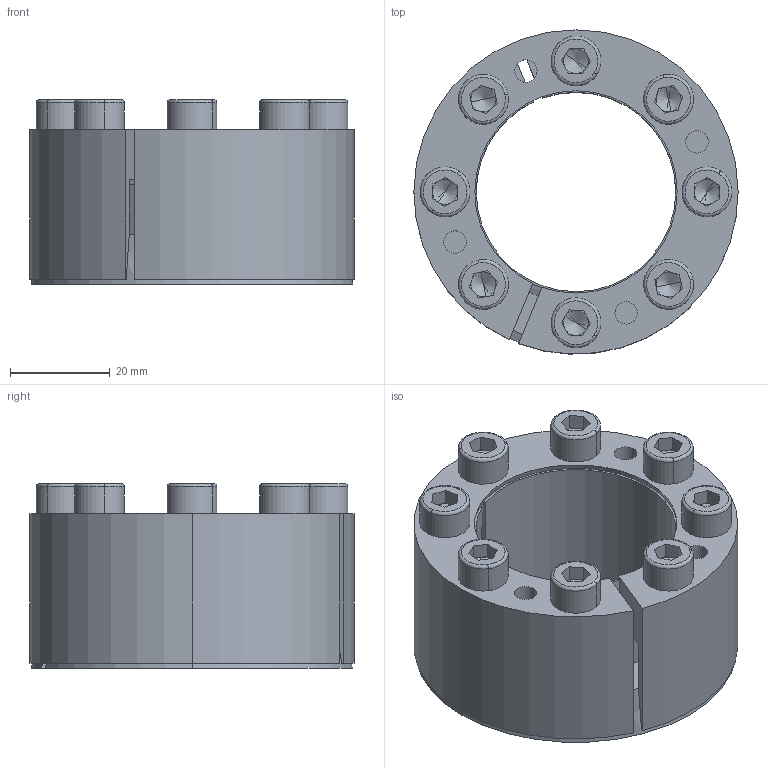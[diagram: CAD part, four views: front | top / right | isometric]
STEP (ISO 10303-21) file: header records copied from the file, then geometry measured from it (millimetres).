
FILE_DESCRIPTION (( 'STEP AP214' ), '1' );
FILE_NAME ('CONEX-K-40x65.step', '2013-04-06T13:21:10', ( 'Pc' ), ( '' ), 'SwSTEP 2.0', 'SolidWorks 2013', '' );
FILE_SCHEMA (( 'AUTOMOTIVE_DESIGN' ));
Length unit declared in the file: millimetre
Products named in the file (1): CONEX-K-40x65
Bounding box: 65 x 64.97 x 37.01 mm (x, y, z)
Volume: 53541.2 mm3; surface area: 37160 mm2
Topology: 10 solids, 10 shells, 290 faces, 670 edges, 400 vertices
Faces by surface type: plane 130, cylinder 84, cone 44, torus 32
Entity records: 11481 total; most frequent: DIRECTION 1542, CARTESIAN_POINT 1369, ORIENTED_EDGE 1308, EDGE_CURVE 654, AXIS2_PLACEMENT_3D 605, VERTEX_POINT 400, EDGE_LOOP 346, LINE 332
